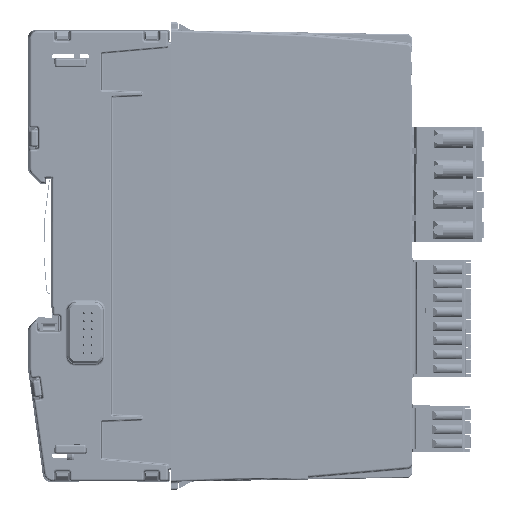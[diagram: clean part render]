
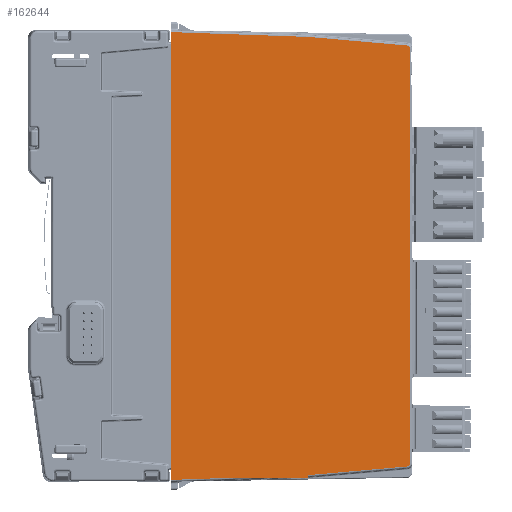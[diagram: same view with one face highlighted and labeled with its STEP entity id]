
A CAD part, left-side view. The second image highlights one B-rep face of the part: STEP entity #162644.
In plain terms, the highlighted planar face has unit normal (-1, -0.018, 0).
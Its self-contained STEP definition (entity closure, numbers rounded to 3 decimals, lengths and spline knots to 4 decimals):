
#15581=FACE_OUTER_BOUND('',#24622,.T.);
#24622=EDGE_LOOP('',(#137081,#137082,#137083,#137084,#137085,#137086,#137087,
#137088,#137089,#137090,#137091,#137092,#137093));
#40501=LINE('',#277905,#56883);
#40514=LINE('',#277977,#56896);
#40571=LINE('',#278205,#56953);
#40896=LINE('',#279579,#57278);
#40897=LINE('',#279581,#57279);
#40898=LINE('',#279585,#57280);
#40899=LINE('',#279589,#57281);
#40900=LINE('',#279591,#57282);
#40901=LINE('',#279593,#57283);
#40902=LINE('',#279595,#57284);
#40903=LINE('',#279596,#57285);
#56883=VECTOR('',#214059,0.3937);
#56896=VECTOR('',#214100,0.3937);
#56953=VECTOR('',#214295,39.3701);
#57278=VECTOR('',#215024,39.3701);
#57279=VECTOR('',#215025,39.3701);
#57280=VECTOR('',#215028,39.3701);
#57281=VECTOR('',#215031,39.3701);
#57282=VECTOR('',#215032,39.3701);
#57283=VECTOR('',#215033,39.3701);
#57284=VECTOR('',#215034,39.3701);
#57285=VECTOR('',#215035,39.3701);
#59648=ELLIPSE('',#175125,0.0315,0.0315);
#59649=ELLIPSE('',#175126,0.0315,0.0315);
#72674=VERTEX_POINT('',#277901);
#72676=VERTEX_POINT('',#277904);
#72698=VERTEX_POINT('',#277972);
#72756=VERTEX_POINT('',#278204);
#73087=VERTEX_POINT('',#279578);
#73088=VERTEX_POINT('',#279580);
#73089=VERTEX_POINT('',#279582);
#73090=VERTEX_POINT('',#279584);
#73091=VERTEX_POINT('',#279586);
#73092=VERTEX_POINT('',#279588);
#73093=VERTEX_POINT('',#279590);
#73094=VERTEX_POINT('',#279592);
#73095=VERTEX_POINT('',#279594);
#94026=EDGE_CURVE('',#72674,#72676,#40501,.T.);
#94053=EDGE_CURVE('',#72676,#72698,#40514,.T.);
#94146=EDGE_CURVE('',#72756,#72698,#40571,.T.);
#94619=EDGE_CURVE('',#72674,#73087,#40896,.T.);
#94620=EDGE_CURVE('',#73087,#73088,#40897,.T.);
#94621=EDGE_CURVE('',#73088,#73089,#59648,.T.);
#94622=EDGE_CURVE('',#73089,#73090,#40898,.T.);
#94623=EDGE_CURVE('',#73090,#73091,#59649,.T.);
#94624=EDGE_CURVE('',#73091,#73092,#40899,.T.);
#94625=EDGE_CURVE('',#73092,#73093,#40900,.T.);
#94626=EDGE_CURVE('',#73093,#73094,#40901,.T.);
#94627=EDGE_CURVE('',#73095,#73094,#40902,.T.);
#94628=EDGE_CURVE('',#73095,#72756,#40903,.T.);
#137081=ORIENTED_EDGE('',*,*,#94619,.T.);
#137082=ORIENTED_EDGE('',*,*,#94620,.T.);
#137083=ORIENTED_EDGE('',*,*,#94621,.T.);
#137084=ORIENTED_EDGE('',*,*,#94622,.T.);
#137085=ORIENTED_EDGE('',*,*,#94623,.T.);
#137086=ORIENTED_EDGE('',*,*,#94624,.T.);
#137087=ORIENTED_EDGE('',*,*,#94625,.T.);
#137088=ORIENTED_EDGE('',*,*,#94626,.T.);
#137089=ORIENTED_EDGE('',*,*,#94627,.F.);
#137090=ORIENTED_EDGE('',*,*,#94628,.T.);
#137091=ORIENTED_EDGE('',*,*,#94146,.T.);
#137092=ORIENTED_EDGE('',*,*,#94053,.F.);
#137093=ORIENTED_EDGE('',*,*,#94026,.F.);
#146276=PLANE('',#175124);
#162644=ADVANCED_FACE('',(#15581),#146276,.T.);
#175124=AXIS2_PLACEMENT_3D('',#279577,#215022,#215023);
#175125=AXIS2_PLACEMENT_3D('',#279583,#215026,#215027);
#175126=AXIS2_PLACEMENT_3D('',#279587,#215029,#215030);
#214059=DIRECTION('',(0.,0.,-1.));
#214100=DIRECTION('',(-0.017,1.,0.));
#214295=DIRECTION('',(0.017,-0.999,0.035));
#215022=DIRECTION('center_axis',(-1.,-0.017,
0.));
#215023=DIRECTION('ref_axis',(-0.017,1.,0.));
#215024=DIRECTION('',(0.017,-0.999,0.035));
#215025=DIRECTION('',(0.017,-0.996,0.087));
#215026=DIRECTION('center_axis',(-1.,-0.017,
0.));
#215027=DIRECTION('ref_axis',(0.017,-1.,0.));
#215028=DIRECTION('',(0.,0.,1.));
#215029=DIRECTION('center_axis',(-1.,-0.017,
0.));
#215030=DIRECTION('ref_axis',(0.017,-1.,0.));
#215031=DIRECTION('',(-0.017,0.996,0.087));
#215032=DIRECTION('',(-0.017,0.999,0.035));
#215033=DIRECTION('',(0.,0.,-1.));
#215034=DIRECTION('',(0.,0.,1.));
#215035=DIRECTION('',(0.,0.,-1.));
#277901=CARTESIAN_POINT('',(0.0005,-2.2096,-4.1958));
#277904=CARTESIAN_POINT('',(0.0005,-2.2096,-4.2206));
#277905=CARTESIAN_POINT('',(0.0005,-2.2096,-3.155));
#277972=CARTESIAN_POINT('',(-0.0119,-1.4997,-4.2206));
#277977=CARTESIAN_POINT('',(-0.0131,-1.4351,-4.2206));
#278204=CARTESIAN_POINT('',(-0.0227,-0.8827,-4.2421));
#278205=CARTESIAN_POINT('',(-0.0282,-0.5654,-4.2532));
#279577=CARTESIAN_POINT('Origin',(-0.0296,-0.489,
-2.0669));
#279578=CARTESIAN_POINT('',(0.0007,-2.2205,-4.1954));
#279579=CARTESIAN_POINT('',(-0.0282,-0.5654,-4.2532));
#279580=CARTESIAN_POINT('',(0.0174,-3.1772,-4.1117));
#279581=CARTESIAN_POINT('',(-0.0261,-0.6869,-4.3296));
#279582=CARTESIAN_POINT('',(0.0179,-3.2059,-4.0803));
#279583=CARTESIAN_POINT('Origin',(0.0173,-3.1744,
-4.0803));
#279584=CARTESIAN_POINT('',(0.0179,-3.2059,-0.0535));
#279585=CARTESIAN_POINT('',(0.0179,-3.2059,-0.0535));
#279586=CARTESIAN_POINT('',(0.0174,-3.1772,-0.0221));
#279587=CARTESIAN_POINT('Origin',(0.0173,-3.1744,
-0.0535));
#279588=CARTESIAN_POINT('',(0.0007,-2.2205,0.0616));
#279589=CARTESIAN_POINT('',(-0.0261,-0.6869,0.1957));
#279590=CARTESIAN_POINT('',(-0.0227,-0.8827,0.1083));
#279591=CARTESIAN_POINT('',(-0.0282,-0.5654,0.1194));
#279592=CARTESIAN_POINT('',(-0.0227,-0.8827,-0.0312));
#279593=CARTESIAN_POINT('',(-0.0227,-0.8827,0.128));
#279594=CARTESIAN_POINT('',(-0.0227,-0.8827,-4.1027));
#279595=CARTESIAN_POINT('',(-0.0227,-0.8827,-7.5932));
#279596=CARTESIAN_POINT('',(-0.0227,-0.8827,0.128));
